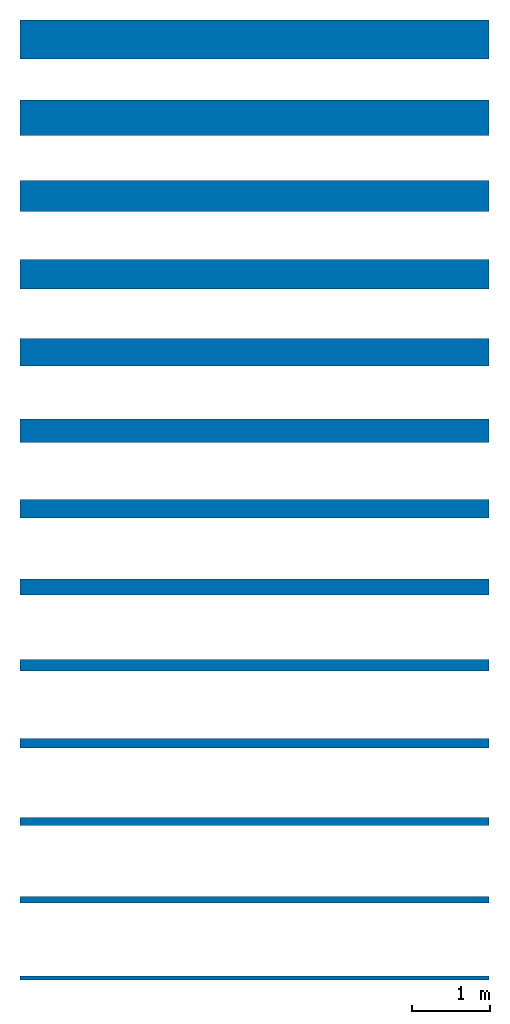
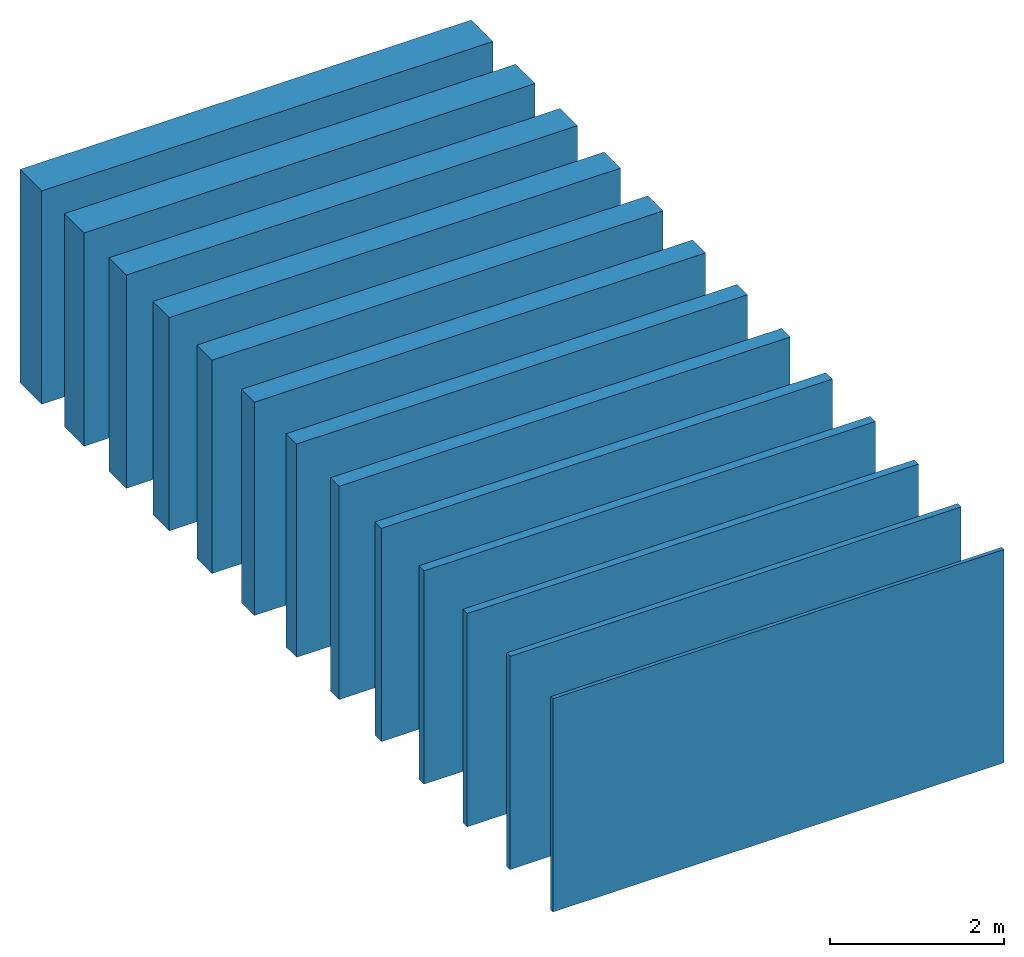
# One storey: 13 walls.
"""IFC2X3 building model written with IfcOpenShell, lengths in millimetres."""

from ifc_helpers import new_model, entity, si_unit, converted_unit, derived_unit, direction, frame, frame_2d, origin, place, context, subcontext, project, spatial, rectangle, extrude, material, layer, layer_set, layer_usage, type_object, element, save


model = new_model("IFC2X3")

# Units and contexts
model_context = context("Model", 3, precision=0.01, world=origin(), true_north=direction((6.12303176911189e-17, 1.0)))
context_of_model = context(None, 3, precision=0.01, world=origin(), true_north=direction((6.12303176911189e-17, 1.0)))
body_context = subcontext(model_context, "Body", "Model", "MODEL_VIEW")
ifc_project = project(units=[si_unit("LENGTHUNIT", "METRE", prefix="MILLI"), si_unit("AREAUNIT", "SQUARE_METRE"), si_unit("VOLUMEUNIT", "CUBIC_METRE"), converted_unit("PLANEANGLEUNIT", "DEGREE", entity("IfcRatioMeasure", 0.0174532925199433), si_unit("PLANEANGLEUNIT", "RADIAN"), dimensions=[0, 0, 0, 0, 0, 0, 0]), si_unit("MASSUNIT", "GRAM", prefix="KILO"), si_unit("TIMEUNIT", "SECOND"), si_unit("FREQUENCYUNIT", "HERTZ"), si_unit("THERMODYNAMICTEMPERATUREUNIT", "DEGREE_CELSIUS"), derived_unit("THERMALTRANSMITTANCEUNIT", [(si_unit("MASSUNIT", "GRAM", prefix="KILO"), 1), (si_unit("THERMODYNAMICTEMPERATUREUNIT", "KELVIN"), -1), (si_unit("TIMEUNIT", "SECOND"), -3)]), derived_unit("VOLUMETRICFLOWRATEUNIT", [(si_unit("LENGTHUNIT", "METRE"), 3), (si_unit("TIMEUNIT", "SECOND"), -1)]), si_unit("ELECTRICCURRENTUNIT", "AMPERE"), si_unit("ELECTRICVOLTAGEUNIT", "VOLT"), si_unit("POWERUNIT", "WATT"), si_unit("FORCEUNIT", "NEWTON", prefix="KILO"), si_unit("ILLUMINANCEUNIT", "LUX"), si_unit("LUMINOUSFLUXUNIT", "LUMEN"), si_unit("LUMINOUSINTENSITYUNIT", "CANDELA"), si_unit("PRESSUREUNIT", "PASCAL")], contexts=[model_context, context_of_model])

# Site, building, storey
site_placement = place(None, origin())
site = spatial("IfcSite", under=ifc_project, at=site_placement, Name="Default", CompositionType="ELEMENT")
building_placement = place(site_placement, origin())
building = spatial("IfcBuilding", under=site, at=building_placement, CompositionType="ELEMENT")
storey_placement = place(building_placement, origin())
storey = spatial("IfcBuildingStorey", under=building, at=storey_placement, Name="Livello 1", CompositionType="ELEMENT", Elevation=0.0)

# Walls
ifc_material = material(Name="GASBETON Evolution")
ifc_layer_1 = layer(ifc_material, 500.0)
ifc_layer_set_1 = layer_set([ifc_layer_1], Name="Muro di base:GASBETON Evolution sp. 500 mm")
ifc_layer_usage_1 = layer_usage(ifc_layer_set_1, "AXIS2", "NEGATIVE", 250.0)
wall_type_1 = type_object("IfcWallType", Name="Muro di base:GASBETON Evolution sp. 500 mm", PredefinedType="STANDARD", material=ifc_layer_set_1)
wall_1_placement = place(storey_placement, frame((-3077.34676084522, 7812.51701641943, 0.0)))
element("IfcWallStandardCase", 1, at=wall_1_placement, inside=storey, type_object=wall_type_1, material=ifc_layer_usage_1, Name="Muro di base:GASBETON Evolution sp. 500 mm", ObjectType="Muro di base:GASBETON Evolution sp. 500 mm", context=body_context, shape_type="SweptSolid", body=[
    extrude(rectangle(XDim=6000.0, YDim=499.999999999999, at=frame_2d((3000.0, -7.105427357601e-14), x_axis=(-1.0, 0.0))), origin(), (0.0, 0.0, 1.0), 3000.0),
])
ifc_layer_2 = layer(ifc_material, 450.0)
ifc_layer_set_2 = layer_set([ifc_layer_2], Name="Muro di base:GASBETON Evolution sp. 450 mm")
ifc_layer_usage_2 = layer_usage(ifc_layer_set_2, "AXIS2", "NEGATIVE", 225.0)
wall_type_2 = type_object("IfcWallType", Name="Muro di base:GASBETON Evolution sp. 450 mm", PredefinedType="STANDARD", material=ifc_layer_set_2)
wall_2_placement = place(storey_placement, frame((-3077.34676084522, 6812.51701641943, 0.0)))
element("IfcWallStandardCase", 2, at=wall_2_placement, inside=storey, type_object=wall_type_2, material=ifc_layer_usage_2, Name="Muro di base:GASBETON Evolution sp. 450 mm", ObjectType="Muro di base:GASBETON Evolution sp. 450 mm", context=body_context, shape_type="SweptSolid", body=[
    extrude(rectangle(XDim=6000.0, YDim=449.999999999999, at=frame_2d((3000.0, 0.0), x_axis=(-1.0, 0.0))), origin(), (0.0, 0.0, 1.0), 3000.0),
])
ifc_layer_3 = layer(ifc_material, 400.0)
ifc_layer_set_3 = layer_set([ifc_layer_3], Name="Muro di base:GASBETON Evolution sp. 400 mm")
ifc_layer_usage_3 = layer_usage(ifc_layer_set_3, "AXIS2", "NEGATIVE", 200.0)
wall_type_3 = type_object("IfcWallType", Name="Muro di base:GASBETON Evolution sp. 400 mm", PredefinedType="STANDARD", material=ifc_layer_set_3)
wall_3_placement = place(storey_placement, frame((-3077.34676084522, 5812.51701641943, 0.0)))
element("IfcWallStandardCase", 3, at=wall_3_placement, inside=storey, type_object=wall_type_3, material=ifc_layer_usage_3, Name="Muro di base:GASBETON Evolution sp. 400 mm", ObjectType="Muro di base:GASBETON Evolution sp. 400 mm", context=body_context, shape_type="SweptSolid", body=[
    extrude(rectangle(XDim=6000.0, YDim=400.0, at=frame_2d((3000.0, 0.0), x_axis=(-1.0, 0.0))), origin(), (0.0, 0.0, 1.0), 3000.0),
])
ifc_layer_4 = layer(ifc_material, 375.0)
ifc_layer_set_4 = layer_set([ifc_layer_4], Name="Muro di base:GASBETON Evolution sp. 375 mm")
ifc_layer_usage_4 = layer_usage(ifc_layer_set_4, "AXIS2", "NEGATIVE", 187.5)
wall_type_4 = type_object("IfcWallType", Name="Muro di base:GASBETON Evolution sp. 375 mm", PredefinedType="STANDARD", material=ifc_layer_set_4)
wall_4_placement = place(storey_placement, frame((-3077.34676084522, 4812.51701641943, 0.0)))
element("IfcWallStandardCase", 4, at=wall_4_placement, inside=storey, type_object=wall_type_4, material=ifc_layer_usage_4, Name="Muro di base:GASBETON Evolution sp. 375 mm", ObjectType="Muro di base:GASBETON Evolution sp. 375 mm", context=body_context, shape_type="SweptSolid", body=[
    extrude(rectangle(XDim=6000.0, YDim=375.0, at=frame_2d((3000.0, -2.70006239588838e-13), x_axis=(-1.0, 0.0))), origin(), (0.0, 0.0, 1.0), 3000.0),
])
ifc_layer_5 = layer(ifc_material, 350.0)
ifc_layer_set_5 = layer_set([ifc_layer_5], Name="Muro di base:GASBETON Evolution sp. 350 mm")
ifc_layer_usage_5 = layer_usage(ifc_layer_set_5, "AXIS2", "NEGATIVE", 175.0)
wall_type_5 = type_object("IfcWallType", Name="Muro di base:GASBETON Evolution sp. 350 mm", PredefinedType="STANDARD", material=ifc_layer_set_5)
wall_5_placement = place(storey_placement, frame((-3077.34676084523, 3812.51701641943, 0.0)))
element("IfcWallStandardCase", 5, at=wall_5_placement, inside=storey, type_object=wall_type_5, material=ifc_layer_usage_5, Name="Muro di base:GASBETON Evolution sp. 350 mm", ObjectType="Muro di base:GASBETON Evolution sp. 350 mm", context=body_context, shape_type="SweptSolid", body=[
    extrude(rectangle(XDim=6000.0, YDim=350.000000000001, at=frame_2d((3000.0, 0.0), x_axis=(-1.0, 0.0))), origin(), (0.0, 0.0, 1.0), 3000.0),
])
ifc_layer_6 = layer(ifc_material, 300.0)
ifc_layer_set_6 = layer_set([ifc_layer_6], Name="Muro di base:GASBETON Evolution sp. 300 mm")
ifc_layer_usage_6 = layer_usage(ifc_layer_set_6, "AXIS2", "NEGATIVE", 150.0)
wall_type_6 = type_object("IfcWallType", Name="Muro di base:GASBETON Evolution sp. 300 mm", PredefinedType="STANDARD", material=ifc_layer_set_6)
wall_6_placement = place(storey_placement, frame((-3077.34676084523, 2812.51701641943, 0.0)))
element("IfcWallStandardCase", 6, at=wall_6_placement, inside=storey, type_object=wall_type_6, material=ifc_layer_usage_6, Name="Muro di base:GASBETON Evolution sp. 300 mm", ObjectType="Muro di base:GASBETON Evolution sp. 300 mm", context=body_context, shape_type="SweptSolid", body=[
    extrude(rectangle(XDim=6000.0, YDim=300.0, at=frame_2d((3000.0, 0.0), x_axis=(-1.0, 0.0))), origin(), (0.0, 0.0, 1.0), 3000.0),
])
ifc_layer_7 = layer(ifc_material, 240.0)
ifc_layer_set_7 = layer_set([ifc_layer_7], Name="Muro di base:GASBETON Evolution sp. 240 mm")
ifc_layer_usage_7 = layer_usage(ifc_layer_set_7, "AXIS2", "NEGATIVE", 120.0)
wall_type_7 = type_object("IfcWallType", Name="Muro di base:GASBETON Evolution sp. 240 mm", PredefinedType="STANDARD", material=ifc_layer_set_7)
wall_7_placement = place(storey_placement, frame((-3077.34676084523, 1812.51701641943, 0.0)))
element("IfcWallStandardCase", 7, at=wall_7_placement, inside=storey, type_object=wall_type_7, material=ifc_layer_usage_7, Name="Muro di base:GASBETON Evolution sp. 240 mm", ObjectType="Muro di base:GASBETON Evolution sp. 240 mm", context=body_context, shape_type="SweptSolid", body=[
    extrude(rectangle(XDim=6000.0, YDim=240.0, at=frame_2d((3000.0, 0.0), x_axis=(-1.0, 0.0))), origin(), (0.0, 0.0, 1.0), 3000.0),
])
ifc_layer_8 = layer(ifc_material, 200.0)
ifc_layer_set_8 = layer_set([ifc_layer_8], Name="Muro di base:GASBETON Evolution sp. 200 mm")
ifc_layer_usage_8 = layer_usage(ifc_layer_set_8, "AXIS2", "NEGATIVE", 100.0)
wall_type_8 = type_object("IfcWallType", Name="Muro di base:GASBETON Evolution sp. 200 mm", PredefinedType="STANDARD", material=ifc_layer_set_8)
wall_8_placement = place(storey_placement, frame((-3077.34676084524, 812.517016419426, 0.0)))
element("IfcWallStandardCase", 8, at=wall_8_placement, inside=storey, type_object=wall_type_8, material=ifc_layer_usage_8, Name="Muro di base:GASBETON Evolution sp. 200 mm", ObjectType="Muro di base:GASBETON Evolution sp. 200 mm", context=body_context, shape_type="SweptSolid", body=[
    extrude(rectangle(XDim=6000.0, YDim=200.0, at=frame_2d((3000.0, 0.0), x_axis=(-1.0, 0.0))), origin(), (0.0, 0.0, 1.0), 3000.0),
])
ifc_layer_9 = layer(ifc_material, 150.0)
ifc_layer_set_9 = layer_set([ifc_layer_9], Name="Muro di base:GASBETON Evolution sp. 150 mm")
ifc_layer_usage_9 = layer_usage(ifc_layer_set_9, "AXIS2", "NEGATIVE", 75.0)
wall_type_9 = type_object("IfcWallType", Name="Muro di base:GASBETON Evolution sp. 150 mm", PredefinedType="STANDARD", material=ifc_layer_set_9)
wall_9_placement = place(storey_placement, frame((-3077.34676084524, -187.482983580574, 0.0)))
element("IfcWallStandardCase", 9, at=wall_9_placement, inside=storey, type_object=wall_type_9, material=ifc_layer_usage_9, Name="Muro di base:GASBETON Evolution sp. 150 mm", ObjectType="Muro di base:GASBETON Evolution sp. 150 mm", context=body_context, shape_type="SweptSolid", body=[
    extrude(rectangle(XDim=6000.0, YDim=150.0, at=frame_2d((3000.0, 0.0), x_axis=(-1.0, 0.0))), origin(), (0.0, 0.0, 1.0), 3000.0),
])
ifc_layer_10 = layer(ifc_material, 120.0)
ifc_layer_set_10 = layer_set([ifc_layer_10], Name="Muro di base:GASBETON Evolution sp. 120 mm")
ifc_layer_usage_10 = layer_usage(ifc_layer_set_10, "AXIS2", "NEGATIVE", 60.0)
wall_type_10 = type_object("IfcWallType", Name="Muro di base:GASBETON Evolution sp. 120 mm", PredefinedType="STANDARD", material=ifc_layer_set_10)
wall_10_placement = place(storey_placement, frame((-3077.34676084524, -1187.48298358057, 0.0)))
element("IfcWallStandardCase", 10, at=wall_10_placement, inside=storey, type_object=wall_type_10, material=ifc_layer_usage_10, Name="Muro di base:GASBETON Evolution sp. 120 mm", ObjectType="Muro di base:GASBETON Evolution sp. 120 mm", context=body_context, shape_type="SweptSolid", body=[
    extrude(rectangle(XDim=6000.0, YDim=120.0, at=frame_2d((3000.0, 6.75015598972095e-14), x_axis=(-1.0, 0.0))), origin(), (0.0, 0.0, 1.0), 3000.0),
])
ifc_layer_11 = layer(ifc_material, 100.0)
ifc_layer_set_11 = layer_set([ifc_layer_11], Name="Muro di base:GASBETON Evolution sp. 100 mm")
ifc_layer_usage_11 = layer_usage(ifc_layer_set_11, "AXIS2", "NEGATIVE", 50.0)
wall_type_11 = type_object("IfcWallType", Name="Muro di base:GASBETON Evolution sp. 100 mm", PredefinedType="STANDARD", material=ifc_layer_set_11)
wall_11_placement = place(storey_placement, frame((-3077.34676084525, -2187.48298358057, 0.0)))
element("IfcWallStandardCase", 11, at=wall_11_placement, inside=storey, type_object=wall_type_11, material=ifc_layer_usage_11, Name="Muro di base:GASBETON Evolution sp. 100 mm", ObjectType="Muro di base:GASBETON Evolution sp. 100 mm", context=body_context, shape_type="SweptSolid", body=[
    extrude(rectangle(XDim=6000.0, YDim=100.0, at=frame_2d((3000.0, 0.0), x_axis=(-1.0, 0.0))), origin(), (0.0, 0.0, 1.0), 3000.0),
])
ifc_layer_12 = layer(ifc_material, 80.0)
ifc_layer_set_12 = layer_set([ifc_layer_12], Name="Muro di base:GASBETON Evolution sp. 80 mm")
ifc_layer_usage_12 = layer_usage(ifc_layer_set_12, "AXIS2", "NEGATIVE", 40.0)
wall_type_12 = type_object("IfcWallType", Name="Muro di base:GASBETON Evolution sp. 80 mm", PredefinedType="STANDARD", material=ifc_layer_set_12)
wall_12_placement = place(storey_placement, frame((-3077.34676084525, -3187.48298358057, 0.0)))
element("IfcWallStandardCase", 12, at=wall_12_placement, inside=storey, type_object=wall_type_12, material=ifc_layer_usage_12, Name="Muro di base:GASBETON Evolution sp. 80 mm", ObjectType="Muro di base:GASBETON Evolution sp. 80 mm", context=body_context, shape_type="SweptSolid", body=[
    extrude(rectangle(XDim=6000.0, YDim=80.0000000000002, at=frame_2d((3000.0, 0.0), x_axis=(-1.0, 0.0))), origin(), (0.0, 0.0, 1.0), 3000.0),
])
ifc_layer_13 = layer(ifc_material, 50.0)
ifc_layer_set_13 = layer_set([ifc_layer_13], Name="Muro di base:GASBETON Evolution sp. 50 mm")
ifc_layer_usage_13 = layer_usage(ifc_layer_set_13, "AXIS2", "NEGATIVE", 25.0)
wall_type_13 = type_object("IfcWallType", Name="Muro di base:GASBETON Evolution sp. 50 mm", PredefinedType="STANDARD", material=ifc_layer_set_13)
wall_13_placement = place(storey_placement, frame((-3077.34676084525, -4187.48298358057, 0.0)))
element("IfcWallStandardCase", 13, at=wall_13_placement, inside=storey, type_object=wall_type_13, material=ifc_layer_usage_13, Name="Muro di base:GASBETON Evolution sp. 50 mm", ObjectType="Muro di base:GASBETON Evolution sp. 50 mm", context=body_context, shape_type="SweptSolid", body=[
    extrude(rectangle(XDim=6000.0, YDim=49.9999999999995, at=frame_2d((3000.0, 0.0), x_axis=(-1.0, 0.0))), origin(), (0.0, 0.0, 1.0), 3000.0),
])

save(model, "model.ifc")
